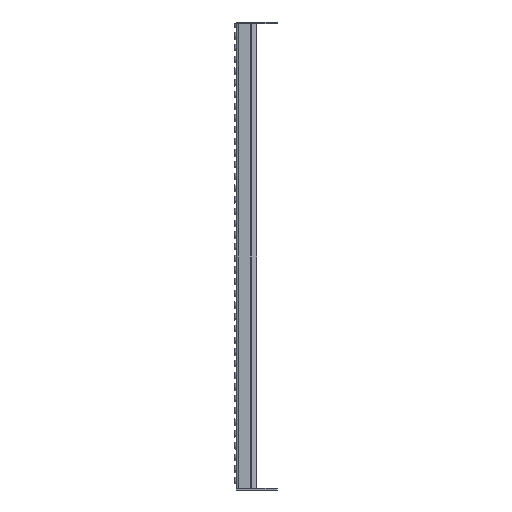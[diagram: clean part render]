
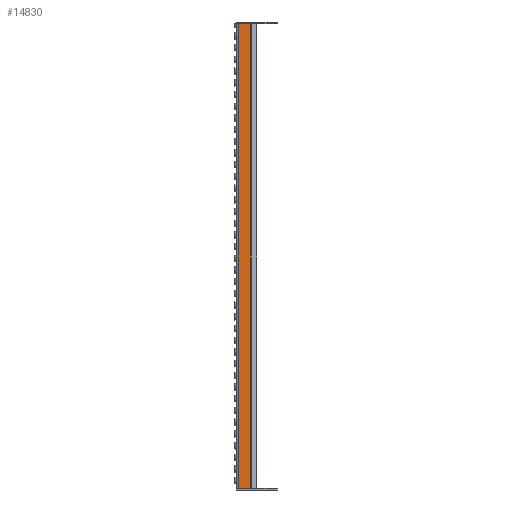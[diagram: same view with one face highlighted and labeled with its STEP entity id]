
A CAD part, left-side view. The second image highlights one B-rep face of the part: STEP entity #14830.
In plain terms, the highlighted planar face has unit normal (-1, 0, 0).
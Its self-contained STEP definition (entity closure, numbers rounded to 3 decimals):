
#1990=FACE_OUTER_BOUND('',#3094,.T.);
#3094=EDGE_LOOP('',(#12259,#12260,#12261,#12262));
#4162=LINE('',#27178,#5587);
#4173=LINE('',#27208,#5598);
#4183=LINE('',#27231,#5608);
#4190=LINE('',#27246,#5615);
#5587=VECTOR('',#19411,10.);
#5598=VECTOR('',#19436,10.);
#5608=VECTOR('',#19458,10.);
#5615=VECTOR('',#19477,10.);
#7095=VERTEX_POINT('',#27175);
#7096=VERTEX_POINT('',#27177);
#7108=VERTEX_POINT('',#27207);
#7115=VERTEX_POINT('',#27230);
#8876=EDGE_CURVE('',#7096,#7095,#4162,.T.);
#8891=EDGE_CURVE('',#7095,#7108,#4173,.T.);
#8903=EDGE_CURVE('',#7115,#7096,#4183,.T.);
#8911=EDGE_CURVE('',#7108,#7115,#4190,.T.);
#12259=ORIENTED_EDGE('',*,*,#8891,.T.);
#12260=ORIENTED_EDGE('',*,*,#8911,.T.);
#12261=ORIENTED_EDGE('',*,*,#8903,.T.);
#12262=ORIENTED_EDGE('',*,*,#8876,.T.);
#13949=PLANE('',#16242);
#14830=ADVANCED_FACE('',(#1990),#13949,.T.);
#16242=AXIS2_PLACEMENT_3D('',#27247,#19478,#19479);
#19411=DIRECTION('',(0.,1.,0.));
#19436=DIRECTION('',(0.,0.,-1.));
#19458=DIRECTION('',(0.,0.,1.));
#19477=DIRECTION('',(0.,-1.,0.));
#19478=DIRECTION('center_axis',(-1.,0.,0.));
#19479=DIRECTION('ref_axis',(0.,0.,1.));
#27175=CARTESIAN_POINT('',(0.,-3.25,794.));
#27177=CARTESIAN_POINT('',(0.,-24.427,794.));
#27178=CARTESIAN_POINT('',(0.,0.,794.));
#27207=CARTESIAN_POINT('',(0.,-3.25,0.));
#27208=CARTESIAN_POINT('',(0.,-3.25,0.));
#27230=CARTESIAN_POINT('',(0.,-24.427,0.));
#27231=CARTESIAN_POINT('',(0.,-24.427,198.5));
#27246=CARTESIAN_POINT('',(0.,0.,0.));
#27247=CARTESIAN_POINT('Origin',(0.,-25.,0.));
